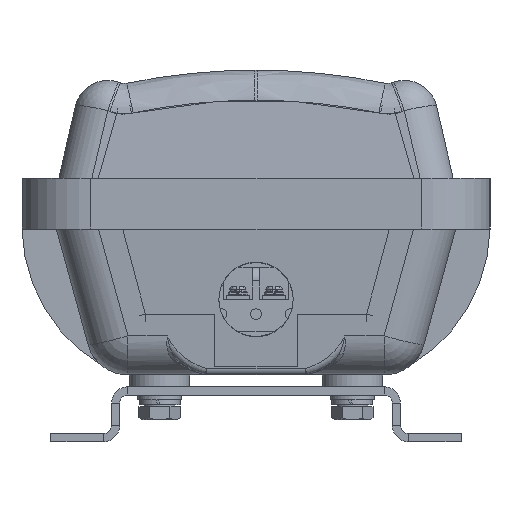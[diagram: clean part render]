
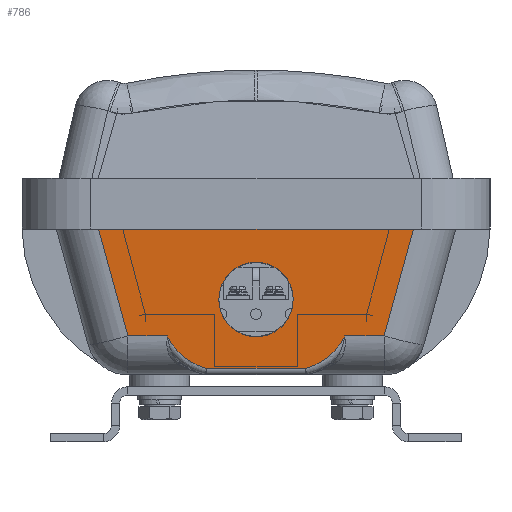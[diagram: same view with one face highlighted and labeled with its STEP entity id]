
A CAD part, left-side view. The second image highlights one B-rep face of the part: STEP entity #786.
In plain terms, the highlighted planar face has unit normal (-0.998, 0, -0.057).
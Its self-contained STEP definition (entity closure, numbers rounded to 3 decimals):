
#122=CARTESIAN_POINT('',(-352.801,32.264,14.152));
#123=VERTEX_POINT('',#122);
#262=CARTESIAN_POINT('',(-352.801,46.553,14.152));
#263=VERTEX_POINT('',#262);
#264=CARTESIAN_POINT('',(-352.801,32.264,14.152));
#265=DIRECTION('',(0.0,1.0,0.0));
#266=VECTOR('',#265,14.288);
#267=LINE('',#264,#266);
#268=EDGE_CURVE('',#123,#263,#267,.T.);
#303=CARTESIAN_POINT('',(-352.134,17.941,2.359));
#304=VERTEX_POINT('',#303);
#312=CARTESIAN_POINT('',(-353.331,12.5,23.512));
#313=DIRECTION('',(0.998,0.,0.057));
#314=DIRECTION('',(0.043,0.658,-0.752));
#315=AXIS2_PLACEMENT_3D('',#312,#313,#314);
#316=CIRCLE('',#315,21.875);
#317=EDGE_CURVE('',#304,#123,#316,.T.);
#482=CARTESIAN_POINT('',(-352.801,-32.264,14.152));
#483=VERTEX_POINT('',#482);
#534=CARTESIAN_POINT('',(-352.801,-46.553,14.152));
#535=VERTEX_POINT('',#534);
#543=CARTESIAN_POINT('',(-352.801,-46.553,14.152));
#544=DIRECTION('',(0.0,1.0,0.0));
#545=VECTOR('',#544,14.288);
#546=LINE('',#543,#545);
#547=EDGE_CURVE('',#535,#483,#546,.T.);
#664=CARTESIAN_POINT('',(-352.134,-17.941,2.359));
#665=VERTEX_POINT('',#664);
#690=CARTESIAN_POINT('',(-353.331,-12.5,23.512));
#691=DIRECTION('',(0.998,0.0,0.057));
#692=DIRECTION('',(0.043,-0.658,-0.752));
#693=AXIS2_PLACEMENT_3D('',#690,#691,#692);
#694=CIRCLE('',#693,21.875);
#695=EDGE_CURVE('',#483,#665,#694,.T.);
#714=CARTESIAN_POINT('',(-352.134,-17.941,2.359));
#715=DIRECTION('',(0.0,1.0,0.0));
#716=VECTOR('',#715,35.882);
#717=LINE('',#714,#716);
#718=EDGE_CURVE('',#665,#304,#717,.T.);
#741=CARTESIAN_POINT('',(-352.0,-58.,0.0));
#742=DIRECTION('',(0.998,0.0,0.057));
#743=DIRECTION('',(0.057,0.0,-0.998));
#744=AXIS2_PLACEMENT_3D('',#741,#742,#743);
#745=PLANE('',#744);
#746=ORIENTED_EDGE('',*,*,#268,.F.);
#747=ORIENTED_EDGE('',*,*,#317,.F.);
#748=ORIENTED_EDGE('',*,*,#718,.F.);
#749=ORIENTED_EDGE('',*,*,#695,.F.);
#750=ORIENTED_EDGE('',*,*,#547,.F.);
#751=CARTESIAN_POINT('',(-355.0,-57.181,53.));
#752=VERTEX_POINT('',#751);
#753=CARTESIAN_POINT('',(-355.,-57.181,53.));
#754=DIRECTION('',(0.055,0.263,-0.963));
#755=VECTOR('',#754,40.335);
#756=LINE('',#753,#755);
#757=EDGE_CURVE('',#752,#535,#756,.T.);
#758=ORIENTED_EDGE('',*,*,#757,.F.);
#759=CARTESIAN_POINT('',(-355.0,57.181,53.));
#760=VERTEX_POINT('',#759);
#761=CARTESIAN_POINT('',(-355.0,-57.181,53.));
#762=DIRECTION('',(0.0,1.0,0.0));
#763=VECTOR('',#762,114.361);
#764=LINE('',#761,#763);
#765=EDGE_CURVE('',#752,#760,#764,.T.);
#766=ORIENTED_EDGE('',*,*,#765,.T.);
#767=CARTESIAN_POINT('',(-352.801,46.553,14.152));
#768=DIRECTION('',(-0.055,0.263,0.963));
#769=VECTOR('',#768,40.335);
#770=LINE('',#767,#769);
#771=EDGE_CURVE('',#263,#760,#770,.T.);
#772=ORIENTED_EDGE('',*,*,#771,.F.);
#773=EDGE_LOOP('',(#746,#747,#748,#749,#750,#758,#766,#772));
#774=FACE_OUTER_BOUND('',#773,.T.);
#775=CARTESIAN_POINT('',(-352.783,0.,13.84));
#776=VERTEX_POINT('',#775);
#777=CARTESIAN_POINT('',(-353.546,0.0,27.319));
#778=DIRECTION('',(0.998,0.0,0.057));
#779=DIRECTION('',(-0.057,0.0,0.998));
#780=AXIS2_PLACEMENT_3D('',#777,#778,#779);
#781=CIRCLE('',#780,13.5);
#782=EDGE_CURVE('',#776,#776,#781,.T.);
#783=ORIENTED_EDGE('',*,*,#782,.T.);
#784=EDGE_LOOP('',(#783));
#785=FACE_BOUND('',#784,.T.);
#786=ADVANCED_FACE('',(#774,#785),#745,.F.);
